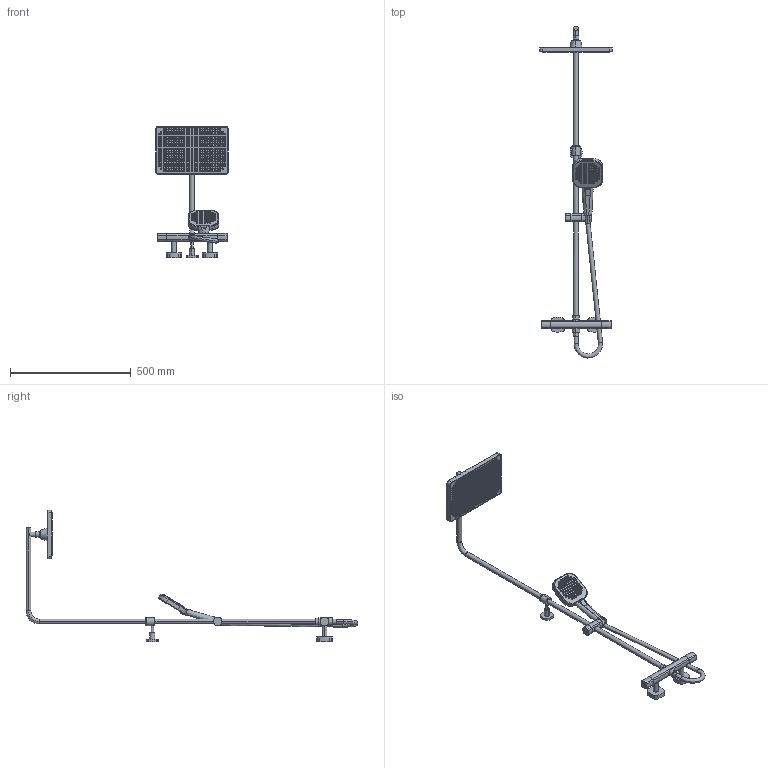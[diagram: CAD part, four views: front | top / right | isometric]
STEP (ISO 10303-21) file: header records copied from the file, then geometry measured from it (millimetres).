
FILE_DESCRIPTION(('FreeCAD Model'),'2;1');
FILE_NAME('Open CASCADE Shape Model','2024-11-19T15:03:00',('Author'),( ''),'Open CASCADE STEP processor 7.6','FreeCAD','Unknown');
FILE_SCHEMA(('AUTOMOTIVE_DESIGN { 1 0 10303 214 1 1 1 1 }'));
Length unit declared in the file: millimetre
Products named in the file (15): TopLevelAssembly; Wyciąganie001; Wyciąganie002; Wyciąganie003; Połączona geometria bryłowa; Obrót profilu; Wyciąganie004; Połączona geometria bryłowa001; Połączona geometria bryłowa002; Połączona geometria bryłowa005; Połączona geometria bryłowa003; Połączona geometria bryłowa004; Połączona geometria bryłowa006; Połączona geometria bryłowa007; Połączona geometria bryłowa008
Assembly tree (14 placements, depth 3):
  TopLevelAssembly
    Wyciąganie001
    Wyciąganie002
    Wyciąganie003
    Połączona geometria bryłowa
    Obrót profilu
    Wyciąganie004
    Połączona geometria bryłowa001
    Połączona geometria bryłowa002
    Połączona geometria bryłowa005
      Połączona geometria bryłowa003
      Połączona geometria bryłowa004
    Połączona geometria bryłowa006
    Połączona geometria bryłowa007
    Połączona geometria bryłowa008
Bounding box: 299.39 x 1374.21 x 543.19 mm (x, y, z)
Volume: 2959525.6 mm3; surface area: 655217 mm2
Topology: 13 solids, 13 shells, 2064 faces, 4269 edges, 2805 vertices
Faces by surface type: cylinder 1335, plane 681, bspline 48
Entity records: 59139 total; most frequent: CARTESIAN_POINT 12463, DIRECTION 10873, ORIENTED_EDGE 8530, AXIS2_PLACEMENT_3D 4680, EDGE_CURVE 4265, VERTEX_POINT 2805, FACE_BOUND 2646, EDGE_LOOP 2646
